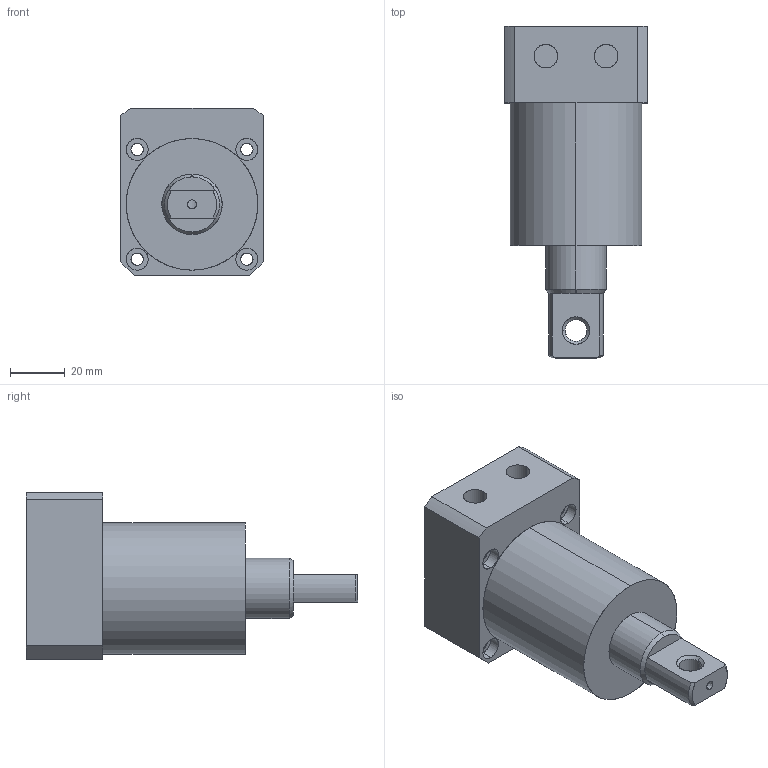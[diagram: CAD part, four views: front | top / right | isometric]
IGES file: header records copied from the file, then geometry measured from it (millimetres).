
Start section: SolidWorks IGES file using analytic representation for surfaces
Global section: file name: E:\karthik\CLASYS\Pneumatic Swing cylinders\Bottom cyl 0312-P\0312-0481\48.IGS; native system: SolidWorks 2010; preprocessor: SolidWorks 2010; author: karthik; date: 130914.165100; units: millimetre
Bounding box: 52 x 121 x 61 mm (x, y, z)
Surface area: 26461.6 mm2 (no closed solid volume)
Topology: 0 solids, 0 shells, 75 faces, 1402 edges, 1402 vertices
Faces by surface type: revolution 52, bspline 23
